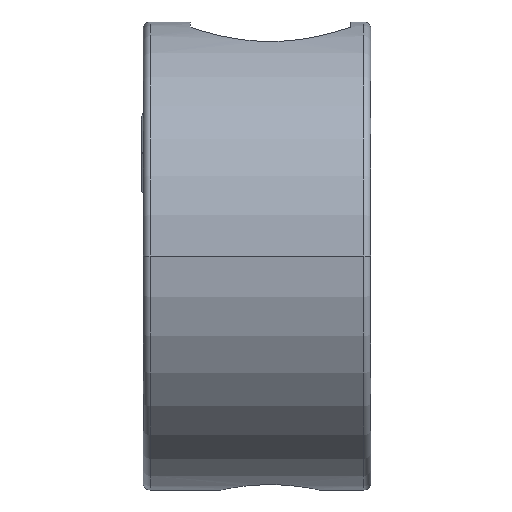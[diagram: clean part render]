
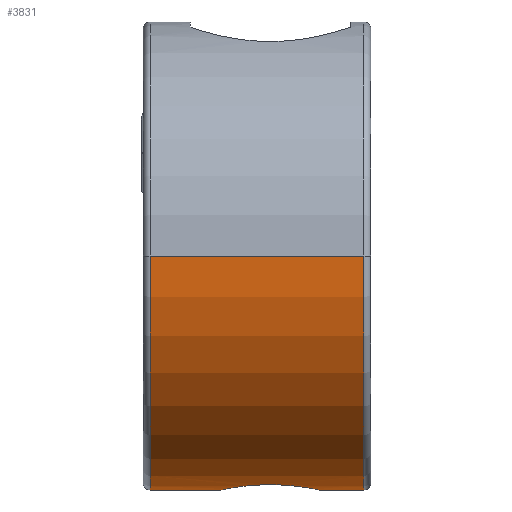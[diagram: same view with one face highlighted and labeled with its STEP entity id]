
A CAD part, left-side view. The second image highlights one B-rep face of the part: STEP entity #3831.
In plain terms, the highlighted cylindrical face has radius 17.5 mm (diameter 35 mm), a partial arc.
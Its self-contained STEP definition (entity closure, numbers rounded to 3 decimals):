
#32 = ORIENTED_EDGE ( 'NONE', *, *, #1774, .T. ) ;
#55 = CARTESIAN_POINT ( 'NONE',  ( -13.824, 7.014, 17.11 ) ) ;
#82 = ORIENTED_EDGE ( 'NONE', *, *, #2472, .T. ) ;
#87 = VERTEX_POINT ( 'NONE', #4266 ) ;
#230 = CARTESIAN_POINT ( 'NONE',  ( -15.86, 4.175, 17.424 ) ) ;
#244 = AXIS2_PLACEMENT_3D ( 'NONE', #4591, #5525, #1445 ) ;
#271 = CARTESIAN_POINT ( 'NONE',  ( -14.561, 9.761, 17.252 ) ) ;
#300 = EDGE_CURVE ( 'NONE', #4407, #87, #4716, .T. ) ;
#432 = FACE_OUTER_BOUND ( 'NONE', #2783, .T. ) ;
#503 = CARTESIAN_POINT ( 'NONE',  ( -13.8, 7.255, 17.104 ) ) ;
#745 = CARTESIAN_POINT ( 'NONE',  ( -17.256, 11.2, 17.5 ) ) ;
#783 = VERTEX_POINT ( 'NONE', #4978 ) ;
#985 = EDGE_CURVE ( 'NONE', #2697, #783, #4334, .T. ) ;
#997 = CARTESIAN_POINT ( 'NONE',  ( -17.5, 3.8, 17.5 ) ) ;
#1078 = CARTESIAN_POINT ( 'NONE',  ( -16.539, 3.919, 17.475 ) ) ;
#1137 = CARTESIAN_POINT ( 'NONE',  ( -14.715, 5.053, 17.278 ) ) ;
#1229 = CARTESIAN_POINT ( 'NONE',  ( -15.243, 10.442, 17.355 ) ) ;
#1234 = ORIENTED_EDGE ( 'NONE', *, *, #985, .T. ) ;
#1285 = CARTESIAN_POINT ( 'NONE',  ( -14.29, 9.356, 17.204 ) ) ;
#1445 = DIRECTION ( 'NONE',  ( 0., 0., 1. ) ) ;
#1558 = CARTESIAN_POINT ( 'NONE',  ( -15.241, 4.56, 17.355 ) ) ;
#1754 = VERTEX_POINT ( 'NONE', #5846 ) ;
#1774 = EDGE_CURVE ( 'NONE', #4651, #1754, #3428, .T. ) ;
#2085 = DIRECTION ( 'NONE',  ( 0., 1., 0. ) ) ;
#2099 = CARTESIAN_POINT ( 'NONE',  ( -13.92, 8.464, 17.13 ) ) ;
#2215 = CARTESIAN_POINT ( 'NONE',  ( -16.541, 11.082, 17.475 ) ) ;
#2229 = DIRECTION ( 'NONE',  ( 0., 0., 1. ) ) ;
#2250 = AXIS2_PLACEMENT_3D ( 'NONE', #4053, #3111, #4918 ) ;
#2369 = VECTOR ( 'NONE', #4724, 1000. ) ;
#2440 = LINE ( 'NONE', #3834, #2369 ) ;
#2472 = EDGE_CURVE ( 'NONE', #1754, #3403, #3476, .T. ) ;
#2508 = CARTESIAN_POINT ( 'NONE',  ( -16.305, 3.99, 17.461 ) ) ;
#2538 = CARTESIAN_POINT ( 'NONE',  ( -17.017, 3.824, 17.495 ) ) ;
#2544 = CARTESIAN_POINT ( 'NONE',  ( -15.055, 10.287, 17.329 ) ) ;
#2575 = CARTESIAN_POINT ( 'NONE',  ( -13.8, 7.745, 17.104 ) ) ;
#2658 = CARTESIAN_POINT ( 'NONE',  ( -17.015, 11.176, 17.495 ) ) ;
#2697 = VERTEX_POINT ( 'NONE', #4015 ) ;
#2783 = EDGE_LOOP ( 'NONE', ( #4549, #1234, #5728, #3283, #3311, #32, #82 ) ) ;
#2821 = DIRECTION ( 'NONE',  ( 0., 1., 0. ) ) ;
#2947 = CARTESIAN_POINT ( 'NONE',  ( 0., 0., 0. ) ) ;
#3111 = DIRECTION ( 'NONE',  ( 0., -1., 0. ) ) ;
#3165 = EDGE_CURVE ( 'NONE', #4651, #87, #3517, .T. ) ;
#3253 = EDGE_CURVE ( 'NONE', #783, #4407, #5691, .T. ) ;
#3273 = CYLINDRICAL_SURFACE ( 'NONE', #5682, 17.5 ) ;
#3283 = ORIENTED_EDGE ( 'NONE', *, *, #300, .T. ) ;
#3311 = ORIENTED_EDGE ( 'NONE', *, *, #3165, .F. ) ;
#3378 = CARTESIAN_POINT ( 'NONE',  ( -17.258, 3.8, 17.5 ) ) ;
#3403 = VERTEX_POINT ( 'NONE', #997 ) ;
#3428 = B_SPLINE_CURVE_WITH_KNOTS ( 'NONE', 3,
 ( #3938, #745, #2658, #2215, #4791, #5733, #3553, #1229, #2544, #5822, #271, #1285, #4470, #4017, #2099, #4852, #2575, #4351 ),
 .UNSPECIFIED., .F., .F.,
 ( 4, 2, 2, 2, 2, 2, 2, 2, 4 ),
 ( 0.017, 0.018, 0.019, 0.02, 0.02, 0.021, 0.022, 0.022, 0.023 ),
 .UNSPECIFIED. ) ;
#3454 = CARTESIAN_POINT ( 'NONE',  ( -17.5, 11.4, 17.5 ) ) ;
#3476 = B_SPLINE_CURVE_WITH_KNOTS ( 'NONE', 3,
 ( #4586, #503, #55, #3703, #5614, #4737, #3845, #5641, #1137, #5247, #1558, #5222, #230, #2508, #1078, #2538, #3378, #5669 ),
 .UNSPECIFIED., .F., .F.,
 ( 4, 2, 2, 2, 2, 2, 2, 2, 4 ),
 ( 0., 0.001, 0.001, 0.002, 0.003, 0.004, 0.004, 0.005, 0.006 ),
 .UNSPECIFIED. ) ;
#3517 = LINE ( 'NONE', #3454, #3773 ) ;
#3553 = CARTESIAN_POINT ( 'NONE',  ( -15.646, 10.711, 17.403 ) ) ;
#3703 = CARTESIAN_POINT ( 'NONE',  ( -13.919, 6.54, 17.13 ) ) ;
#3773 = VECTOR ( 'NONE', #2085, 1000. ) ;
#3831 = ADVANCED_FACE ( 'NONE', ( #432 ), #3273, .T. ) ;
#3834 = CARTESIAN_POINT ( 'NONE',  ( -17.5, 11.4, 17.5 ) ) ;
#3845 = CARTESIAN_POINT ( 'NONE',  ( -14.29, 5.644, 17.204 ) ) ;
#3938 = CARTESIAN_POINT ( 'NONE',  ( -17.5, 11.2, 17.5 ) ) ;
#3997 = CARTESIAN_POINT ( 'NONE',  ( -17.5, 11.2, 17.5 ) ) ;
#4015 = CARTESIAN_POINT ( 'NONE',  ( -17.5, 0.5, 17.5 ) ) ;
#4017 = CARTESIAN_POINT ( 'NONE',  ( -13.991, 8.699, 17.145 ) ) ;
#4053 = CARTESIAN_POINT ( 'NONE',  ( -17.5, 16.5, 0. ) ) ;
#4266 = CARTESIAN_POINT ( 'NONE',  ( -17.5, 16.5, 17.5 ) ) ;
#4334 = CIRCLE ( 'NONE', #244, 17.5 ) ;
#4351 = CARTESIAN_POINT ( 'NONE',  ( -13.8, 7.5, 17.104 ) ) ;
#4407 = VERTEX_POINT ( 'NONE', #5318 ) ;
#4470 = CARTESIAN_POINT ( 'NONE',  ( -14.176, 9.144, 17.182 ) ) ;
#4549 = ORIENTED_EDGE ( 'NONE', *, *, #5195, .F. ) ;
#4586 = CARTESIAN_POINT ( 'NONE',  ( -13.8, 7.5, 17.104 ) ) ;
#4591 = CARTESIAN_POINT ( 'NONE',  ( -17.5, 0.5, 0. ) ) ;
#4651 = VERTEX_POINT ( 'NONE', #3997 ) ;
#4716 = CIRCLE ( 'NONE', #2250, 17.5 ) ;
#4724 = DIRECTION ( 'NONE',  ( 0., 1., 0. ) ) ;
#4737 = CARTESIAN_POINT ( 'NONE',  ( -14.176, 5.856, 17.182 ) ) ;
#4791 = CARTESIAN_POINT ( 'NONE',  ( -16.305, 11.01, 17.461 ) ) ;
#4852 = CARTESIAN_POINT ( 'NONE',  ( -13.824, 7.987, 17.11 ) ) ;
#4865 = DIRECTION ( 'NONE',  ( 0., 1., 0. ) ) ;
#4918 = DIRECTION ( 'NONE',  ( 0., 0., -1. ) ) ;
#4978 = CARTESIAN_POINT ( 'NONE',  ( 0., 0.5, 0. ) ) ;
#5080 = CARTESIAN_POINT ( 'NONE',  ( -17.5, 11.4, 0. ) ) ;
#5195 = EDGE_CURVE ( 'NONE', #2697, #3403, #2440, .T. ) ;
#5199 = VECTOR ( 'NONE', #4865, 1000. ) ;
#5222 = CARTESIAN_POINT ( 'NONE',  ( -15.645, 4.289, 17.403 ) ) ;
#5247 = CARTESIAN_POINT ( 'NONE',  ( -15.055, 4.713, 17.329 ) ) ;
#5318 = CARTESIAN_POINT ( 'NONE',  ( 0., 16.5, 0. ) ) ;
#5525 = DIRECTION ( 'NONE',  ( 0., 1., 0. ) ) ;
#5614 = CARTESIAN_POINT ( 'NONE',  ( -13.99, 6.304, 17.145 ) ) ;
#5641 = CARTESIAN_POINT ( 'NONE',  ( -14.559, 5.242, 17.252 ) ) ;
#5669 = CARTESIAN_POINT ( 'NONE',  ( -17.5, 3.8, 17.5 ) ) ;
#5682 = AXIS2_PLACEMENT_3D ( 'NONE', #5080, #2821, #2229 ) ;
#5691 = LINE ( 'NONE', #2947, #5199 ) ;
#5728 = ORIENTED_EDGE ( 'NONE', *, *, #3253, .T. ) ;
#5733 = CARTESIAN_POINT ( 'NONE',  ( -15.859, 10.825, 17.424 ) ) ;
#5822 = CARTESIAN_POINT ( 'NONE',  ( -14.715, 9.947, 17.278 ) ) ;
#5846 = CARTESIAN_POINT ( 'NONE',  ( -13.8, 7.5, 17.104 ) ) ;
